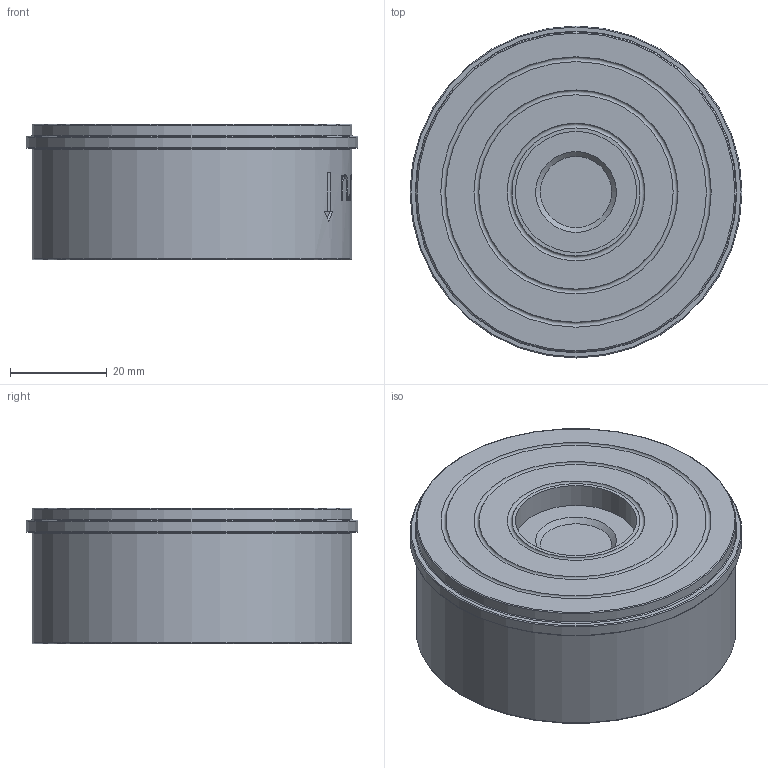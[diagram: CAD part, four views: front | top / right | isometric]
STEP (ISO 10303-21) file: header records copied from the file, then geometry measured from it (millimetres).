
FILE_DESCRIPTION(('STEP AP214'), '1');
FILE_NAME('VCS3232-Fb 孰囡囗 钺疣蝽 DN.ru 捏25 畜40', '', ('UNSPECIFIED'), ('UNSPECIFIED'), 'C3D Converter', 'C3D Toolkit', '');
FILE_SCHEMA(('AUTOMOTIVE_DESIGN { 1 0 10303 214 3 1 1}'));
Length unit declared in the file: millimetre
Products named in the file (1): VCS3232-Fb
Bounding box: 68.5 x 68.5 x 28 mm (x, y, z)
Volume: 38384 mm3; surface area: 27537.1 mm2
Topology: 2 solids, 2 shells, 137 faces, 330 edges, 217 vertices
Faces by surface type: plane 67, cylinder 30, extrusion 27, torus 11, bspline 1, cone 1
Full cylindrical faces by diameter (mm): 8.333 x1, 8.533 x1, 25 x1, 30 x1, 35 x1, 43.98 x1, 50 x1, 53.98 x1, 54 x1, 59.75 x1, 66 x2, 68.5 x1
Entity records: 8707 total; most frequent: CARTESIAN_POINT 4874, ORIENTED_EDGE 608, DIRECTION 584, EDGE_CURVE 304, AXIS2_PLACEMENT_3D 217, VERTEX_POINT 217, EDGE_LOOP 193, VECTOR 150
